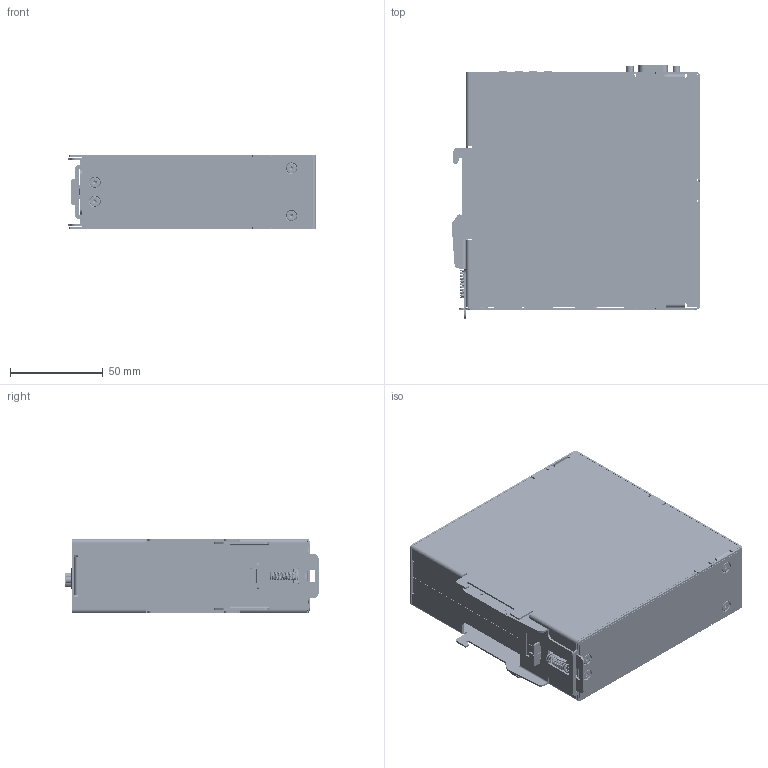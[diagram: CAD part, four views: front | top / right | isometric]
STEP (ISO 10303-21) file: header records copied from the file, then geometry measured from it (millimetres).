
FILE_DESCRIPTION (( 'STEP AP214' ), '1' );
FILE_NAME ('991-24578-00 Profibus Module Dumb Solid.STEP', '2023-02-16T00:41:29', ( '' ), ( '' ), 'SwSTEP 2.0', 'SolidWorks 2019', '' );
FILE_SCHEMA (( 'AUTOMOTIVE_DESIGN' ));
Length unit declared in the file: millimetre
Products named in the file (1): 991-24578-00 Profibus Module Dumb Solid
Bounding box: 134.14 x 136.65 x 39.6 mm (x, y, z)
Surface area: 181321 mm2 (no closed solid volume)
Topology: 0 solids, 71 shells, 5435 faces, 14292 edges, 9249 vertices
Faces by surface type: plane 3237, cylinder 1616, bspline 307, cone 179, torus 80, sphere 16
Entity records: 249340 total; most frequent: CARTESIAN_POINT 58630, ORIENTED_EDGE 28520, DIRECTION 25813, EDGE_CURVE 14260, VERTEX_POINT 9249, LINE 8969, VECTOR 8969, AXIS2_PLACEMENT_3D 8422
